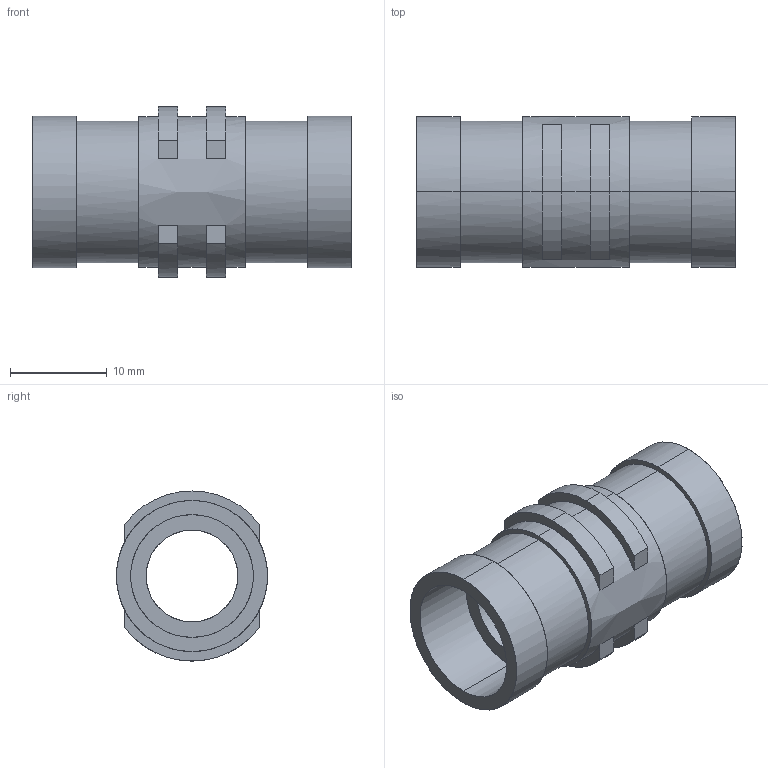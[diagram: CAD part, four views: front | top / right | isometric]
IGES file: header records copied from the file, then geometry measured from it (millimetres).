
Start section: Comment
Global section: file name: 70-12.7U-P.igs; native system:  By Spatial Corp.; preprocessor: XPlus GENERIC/IGES 3.0; author: Author; organization: Title; date: 20100222.110003; units: inch
Bounding box: 33 x 15.61 x 17.6 mm (x, y, z)
Surface area: 3190.6 mm2 (no closed solid volume)
Topology: 0 solids, 0 shells, 46 faces, 228 edges, 228 vertices
Faces by surface type: bspline 46
